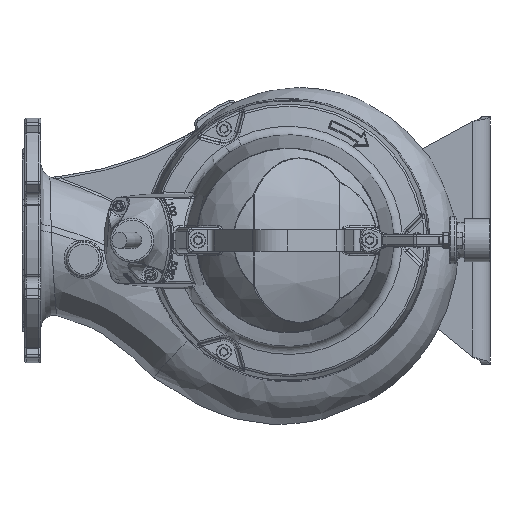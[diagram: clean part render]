
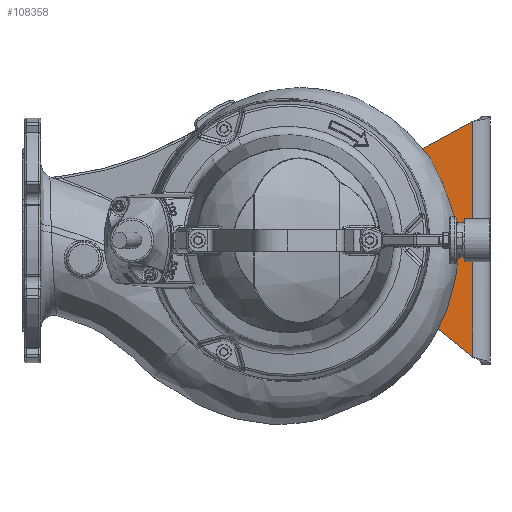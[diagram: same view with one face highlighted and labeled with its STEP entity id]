
A CAD part, left-side view. The second image highlights one B-rep face of the part: STEP entity #108358.
In plain terms, the highlighted planar face has unit normal (-1, 0, 0).
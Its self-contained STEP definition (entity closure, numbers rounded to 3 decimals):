
#1727 = DIRECTION ( 'NONE',  ( 0., 0.848, 0.531 ) ) ;
#6482 = VERTEX_POINT ( 'NONE', #59086 ) ;
#8664 = AXIS2_PLACEMENT_3D ( 'NONE', #100344, #109962, #11043 ) ;
#8891 = DIRECTION ( 'NONE',  ( 1., 0., 0. ) ) ;
#11043 = DIRECTION ( 'NONE',  ( 0., 0., 1. ) ) ;
#12460 = PLANE ( 'NONE',  #28739 ) ;
#12819 = CIRCLE ( 'NONE', #40184, 20. ) ;
#13989 = DIRECTION ( 'NONE',  ( 0., 0., -1. ) ) ;
#15326 = ORIENTED_EDGE ( 'NONE', *, *, #57729, .F. ) ;
#15402 = VECTOR ( 'NONE', #69105, 1000. ) ;
#16095 = AXIS2_PLACEMENT_3D ( 'NONE', #49159, #8891, #29483 ) ;
#16219 = ORIENTED_EDGE ( 'NONE', *, *, #51806, .T. ) ;
#17243 = FACE_BOUND ( 'NONE', #129037, .T. ) ;
#18250 = EDGE_CURVE ( 'NONE', #61958, #61958, #96298, .T. ) ;
#20344 = FACE_BOUND ( 'NONE', #78158, .T. ) ;
#20501 = VECTOR ( 'NONE', #1727, 1000. ) ;
#21832 = ORIENTED_EDGE ( 'NONE', *, *, #81637, .F. ) ;
#21912 = ORIENTED_EDGE ( 'NONE', *, *, #68443, .F. ) ;
#22581 = CARTESIAN_POINT ( 'NONE',  ( -10., 79.489, -66.773 ) ) ;
#25126 = EDGE_CURVE ( 'NONE', #66470, #80624, #28076, .T. ) ;
#26205 = EDGE_CURVE ( 'NONE', #6482, #93020, #99995, .T. ) ;
#28076 = LINE ( 'NONE', #31589, #53194 ) ;
#28739 = AXIS2_PLACEMENT_3D ( 'NONE', #112267, #122371, #121058 ) ;
#29483 = DIRECTION ( 'NONE',  ( 0., 0., -1. ) ) ;
#31589 = CARTESIAN_POINT ( 'NONE',  ( -10., 0., 144. ) ) ;
#31758 = CARTESIAN_POINT ( 'NONE',  ( -10., 88.601, 78.75 ) ) ;
#32721 = ORIENTED_EDGE ( 'NONE', *, *, #25126, .F. ) ;
#33743 = DIRECTION ( 'NONE',  ( -1., 0., 0. ) ) ;
#33834 = CARTESIAN_POINT ( 'NONE',  ( -10., 10., -144. ) ) ;
#35367 = VERTEX_POINT ( 'NONE', #117932 ) ;
#37339 = DIRECTION ( 'NONE',  ( 1., 0., 0. ) ) ;
#38638 = ORIENTED_EDGE ( 'NONE', *, *, #96888, .F. ) ;
#40184 = AXIS2_PLACEMENT_3D ( 'NONE', #94944, #33743, #13989 ) ;
#41541 = CARTESIAN_POINT ( 'NONE',  ( -10., 61.317, -39.243 ) ) ;
#43497 = VERTEX_POINT ( 'NONE', #127011 ) ;
#43547 = ORIENTED_EDGE ( 'NONE', *, *, #18250, .T. ) ;
#46697 = ORIENTED_EDGE ( 'NONE', *, *, #60662, .T. ) ;
#46880 = DIRECTION ( 'NONE',  ( 0., 0., 1. ) ) ;
#49159 = CARTESIAN_POINT ( 'NONE',  ( -10., 79.489, -60.273 ) ) ;
#51806 = EDGE_CURVE ( 'NONE', #6482, #80624, #129886, .T. ) ;
#53194 = VECTOR ( 'NONE', #70439, 1000. ) ;
#54705 = VECTOR ( 'NONE', #46880, 1000. ) ;
#57729 = EDGE_CURVE ( 'NONE', #128822, #98755, #12819, .T. ) ;
#58951 = CARTESIAN_POINT ( 'NONE',  ( -10., 10., 138.563 ) ) ;
#59086 = CARTESIAN_POINT ( 'NONE',  ( -10., 10., -135.896 ) ) ;
#60662 = EDGE_CURVE ( 'NONE', #69725, #69725, #76880, .T. ) ;
#61958 = VERTEX_POINT ( 'NONE', #90862 ) ;
#63755 = VERTEX_POINT ( 'NONE', #66367 ) ;
#64133 = CARTESIAN_POINT ( 'NONE',  ( -10., 95.766, 91.928 ) ) ;
#66367 = CARTESIAN_POINT ( 'NONE',  ( -10., 56.385, 40.877 ) ) ;
#66470 = VERTEX_POINT ( 'NONE', #64133 ) ;
#68083 = CIRCLE ( 'NONE', #76730, 15. ) ;
#68443 = EDGE_CURVE ( 'NONE', #35367, #66470, #68083, .T. ) ;
#69105 = DIRECTION ( 'NONE',  ( 0., 0.777, 0.63 ) ) ;
#69725 = VERTEX_POINT ( 'NONE', #22581 ) ;
#69932 = CARTESIAN_POINT ( 'NONE',  ( -10., 47., 23.927 ) ) ;
#70439 = DIRECTION ( 'NONE',  ( 0., -0.879, 0.478 ) ) ;
#70859 = CARTESIAN_POINT ( 'NONE',  ( -10., 61.317, -39.243 ) ) ;
#76509 = LINE ( 'NONE', #116806, #103206 ) ;
#76644 = DIRECTION ( 'NONE',  ( 0., 0., -1. ) ) ;
#76730 = AXIS2_PLACEMENT_3D ( 'NONE', #107294, #37339, #76644 ) ;
#76880 = CIRCLE ( 'NONE', #16095, 6.5 ) ;
#78158 = EDGE_LOOP ( 'NONE', ( #43547 ) ) ;
#80260 = CARTESIAN_POINT ( 'NONE',  ( -10., 47., -20.067 ) ) ;
#80360 = ORIENTED_EDGE ( 'NONE', *, *, #127580, .F. ) ;
#80624 = VERTEX_POINT ( 'NONE', #58951 ) ;
#81637 = EDGE_CURVE ( 'NONE', #93020, #43497, #103408, .T. ) ;
#82936 = DIRECTION ( 'NONE',  ( 1., 0., 0. ) ) ;
#83217 = VERTEX_POINT ( 'NONE', #69932 ) ;
#84972 = CARTESIAN_POINT ( 'NONE',  ( -10., 79.489, -60.273 ) ) ;
#89557 = EDGE_CURVE ( 'NONE', #63755, #35367, #128700, .T. ) ;
#90862 = CARTESIAN_POINT ( 'NONE',  ( -10., 88.601, 72.25 ) ) ;
#91900 = CARTESIAN_POINT ( 'NONE',  ( -10., 56.385, 40.877 ) ) ;
#91927 = DIRECTION ( 'NONE',  ( 0., -0.959, 0.284 ) ) ;
#93020 = VERTEX_POINT ( 'NONE', #125440 ) ;
#94944 = CARTESIAN_POINT ( 'NONE',  ( -10., 67., -20.067 ) ) ;
#95469 = ORIENTED_EDGE ( 'NONE', *, *, #26205, .F. ) ;
#96022 = EDGE_LOOP ( 'NONE', ( #16219, #32721, #21912, #119980, #127171, #80360, #15326, #38638, #21832, #95469 ) ) ;
#96298 = CIRCLE ( 'NONE', #107324, 6.5 ) ;
#96888 = EDGE_CURVE ( 'NONE', #43497, #128822, #126267, .T. ) ;
#98358 = CIRCLE ( 'NONE', #8664, 20. ) ;
#98755 = VERTEX_POINT ( 'NONE', #80260 ) ;
#99995 = LINE ( 'NONE', #110711, #15402 ) ;
#100344 = CARTESIAN_POINT ( 'NONE',  ( -10., 67., 23.927 ) ) ;
#103206 = VECTOR ( 'NONE', #107097, 1000. ) ;
#103408 = CIRCLE ( 'NONE', #116391, 15. ) ;
#104648 = DIRECTION ( 'NONE',  ( 0., 0., -1. ) ) ;
#107097 = DIRECTION ( 'NONE',  ( 0., 0., 1. ) ) ;
#107294 = CARTESIAN_POINT ( 'NONE',  ( -10., 88.601, 78.75 ) ) ;
#107324 = AXIS2_PLACEMENT_3D ( 'NONE', #31758, #82936, #111839 ) ;
#108358 = ADVANCED_FACE ( 'NONE', ( #20344, #17243, #126930 ), #12460, .F. ) ;
#109962 = DIRECTION ( 'NONE',  ( -1., 0., 0. ) ) ;
#110711 = CARTESIAN_POINT ( 'NONE',  ( -10., 0., -144. ) ) ;
#111839 = DIRECTION ( 'NONE',  ( 0., 0., -1. ) ) ;
#112267 = CARTESIAN_POINT ( 'NONE',  ( -10., 88.601, 78.75 ) ) ;
#114324 = DIRECTION ( 'NONE',  ( 1., 0., 0. ) ) ;
#115323 = VECTOR ( 'NONE', #91927, 1000. ) ;
#116391 = AXIS2_PLACEMENT_3D ( 'NONE', #84972, #114324, #104648 ) ;
#116806 = CARTESIAN_POINT ( 'NONE',  ( -10., 47., 0. ) ) ;
#117932 = CARTESIAN_POINT ( 'NONE',  ( -10., 96.562, 66.037 ) ) ;
#119980 = ORIENTED_EDGE ( 'NONE', *, *, #89557, .F. ) ;
#121058 = DIRECTION ( 'NONE',  ( 0., 0., -1. ) ) ;
#122371 = DIRECTION ( 'NONE',  ( 1., 0., 0. ) ) ;
#122410 = EDGE_CURVE ( 'NONE', #83217, #63755, #98358, .T. ) ;
#125440 = CARTESIAN_POINT ( 'NONE',  ( -10., 88.933, -71.926 ) ) ;
#126267 = LINE ( 'NONE', #70859, #115323 ) ;
#126930 = FACE_OUTER_BOUND ( 'NONE', #96022, .T. ) ;
#127011 = CARTESIAN_POINT ( 'NONE',  ( -10., 83.751, -45.891 ) ) ;
#127171 = ORIENTED_EDGE ( 'NONE', *, *, #122410, .F. ) ;
#127580 = EDGE_CURVE ( 'NONE', #98755, #83217, #76509, .T. ) ;
#128700 = LINE ( 'NONE', #91900, #20501 ) ;
#128822 = VERTEX_POINT ( 'NONE', #41541 ) ;
#129037 = EDGE_LOOP ( 'NONE', ( #46697 ) ) ;
#129886 = LINE ( 'NONE', #33834, #54705 ) ;
